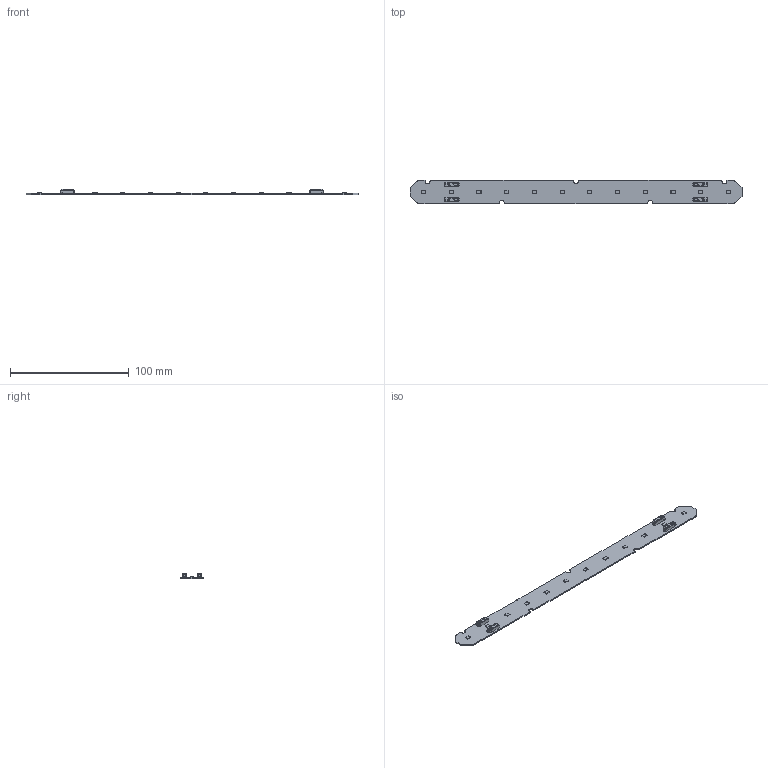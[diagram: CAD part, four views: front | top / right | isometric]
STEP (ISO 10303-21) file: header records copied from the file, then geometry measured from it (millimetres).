
FILE_DESCRIPTION(/* description */ ('Unknown'),/* implementation_level */ '2;1');
FILE_NAME(/* name */ 'LinLED 280x20mm 550lm 4C 36V sh-000 2023-05-17',/* time_stamp */ '2023-05-17T15:49:59+02:00',/* author */ ('Unknown'),/* organization */ ('Unknown'),/* preprocessor_version */ 'ST-DEVELOPER v18.102',/* originating_system */ 'Solid Edge',/* authorisation */ 'Unknown');
FILE_SCHEMA (('AUTOMOTIVE_DESIGN {1 0 10303 214 3 1 1}'));
Length unit declared in the file: millimetre
Products named in the file (1): LinLED 280x20mm 550lm 4C 36V sh-000 2023-05-17
Bounding box: 279.6 x 20 x 4.45 mm (x, y, z)
Volume: 6004.2 mm3; surface area: 12418.1 mm2
Topology: 1 solids, 1 shells, 1190 faces, 3080 edges, 1916 vertices
Faces by surface type: plane 599, cylinder 279, torus 128, cone 100, bspline 52, sphere 32
Entity records: 46290 total; most frequent: CARTESIAN_POINT 10639, ORIENTED_EDGE 6064, DIRECTION 4996, EDGE_CURVE 3032, VERTEX_POINT 1904, LINE 1778, VECTOR 1778, AXIS2_PLACEMENT_3D 1609
